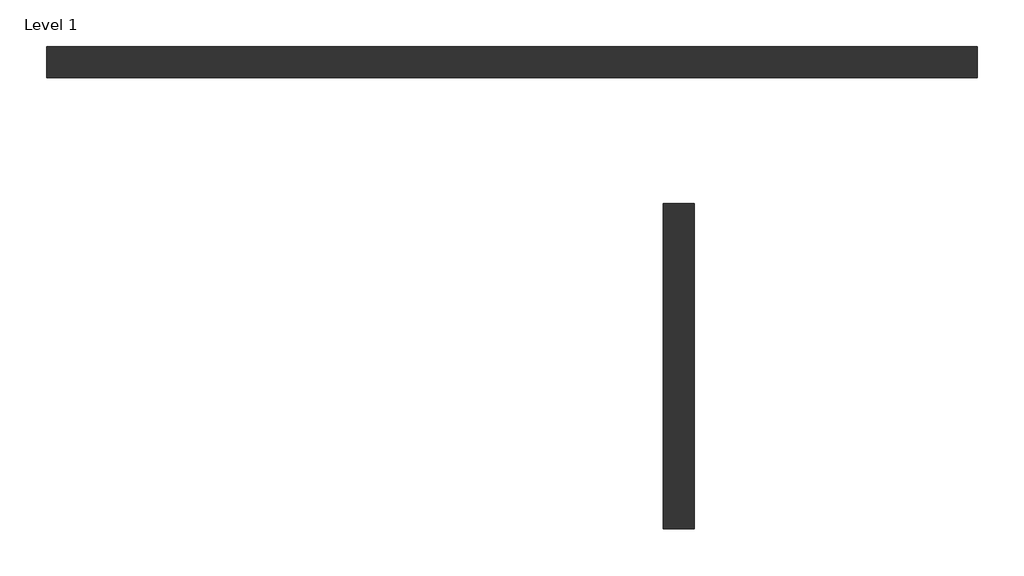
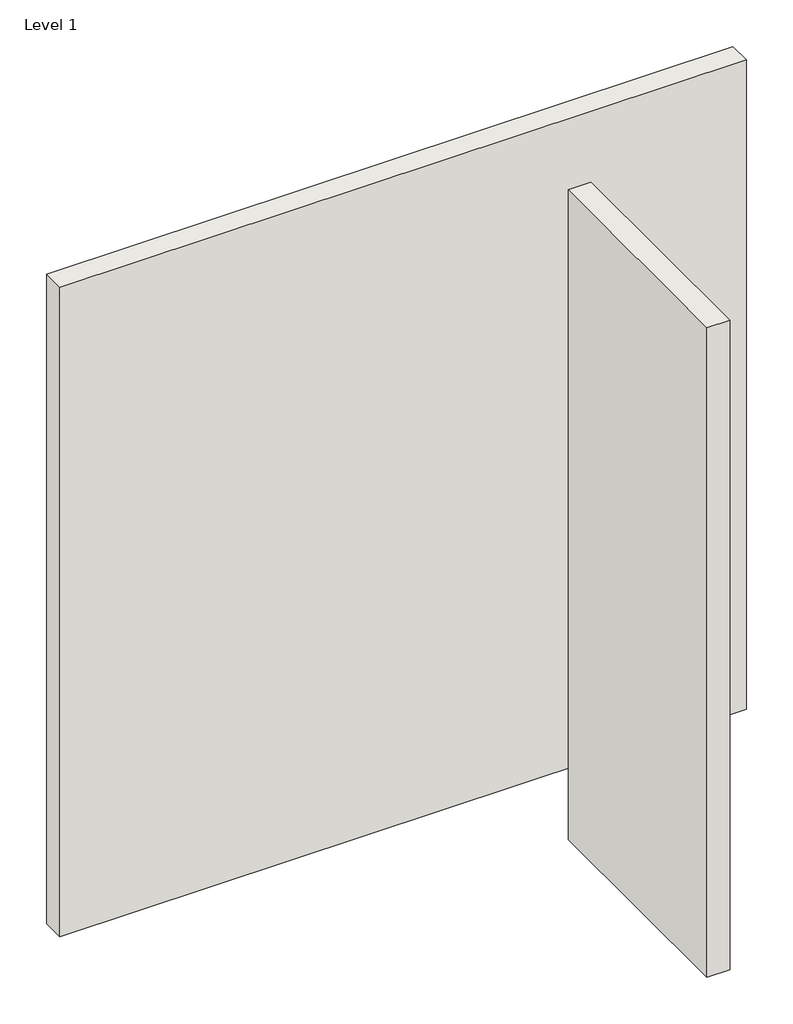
# One storey: 2 walls.
"""IFC4 building model written with IfcOpenShell, lengths in millimetres."""

from ifc_helpers import new_model, si_unit, origin, origin_with_axes, place, context, project, spatial, polyline, outline, extrude, element, save

model = new_model("IFC4")

# Units and contexts
model_context = context("Model", 3, world=origin())
ifc_project = project(units=[si_unit("LENGTHUNIT", "METRE", prefix="MILLI")], contexts=[model_context])

# Site, building, storey
site = spatial("IfcSite", under=ifc_project)
building = spatial("IfcBuilding", under=site)
storey = spatial("IfcBuildingStorey", under=building, Name="Level 1", Elevation=0.0)

# Walls
placement = place(None, origin())
element("IfcWall", 1, ObjectType="Generic - 8\"", at=placement, inside=storey, context=model_context, shape_type="SweptSolid", body=[
    extrude(outline(polyline([(3784.3397098, -741.8838621), (-2311.6602902, -741.8838621), (-2311.6602902, -538.6838621), (3784.3397098, -538.6838621), (3784.3397098, -741.8838621)])), origin_with_axes(), (0.0, 0.0, 1.0), 6096.0),
])
element("IfcWall", 2, ObjectType="Generic - 8\"", at=placement, inside=storey, context=model_context, shape_type="SweptSolid", body=[
    extrude(outline(polyline([(1726.9397098, -3700.9838621), (1726.9397098, -1567.3838621), (1930.1397098, -1567.3838621), (1930.1397098, -3700.9838621), (1726.9397098, -3700.9838621)])), origin_with_axes(), (0.0, 0.0, 1.0), 6096.0),
])

save(model, "model.ifc")
